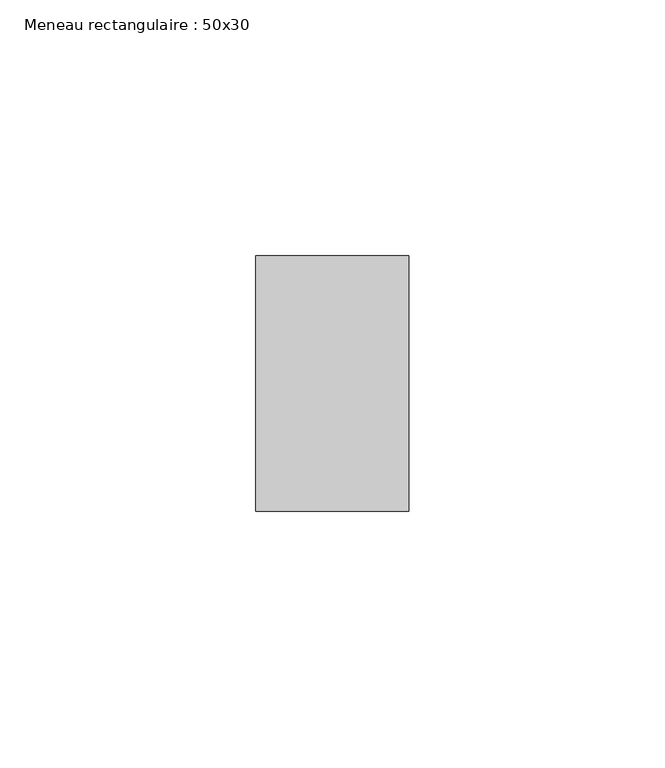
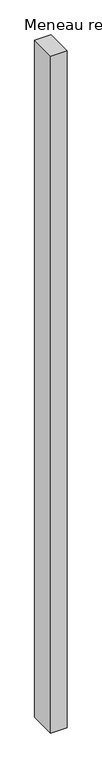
"""IFC4 building model written with IfcOpenShell, lengths in millimetres: member geometry, Meneau rectangulaire : 50x30."""

from ifc_helpers import new_model, si_unit, frame, origin, place, context, project, spatial, polyline, outline, extrude, source, transform, mapped, element, save


def meneau_rectangulaire_50x30_d17a0aed(model_context):
    return source(origin(), model_context, "Body", "SweptSolid", [
        extrude(outline(polyline([(15.0, 0.0), (15.0, -50.0), (-15.0, -50.0), (-15.0, 0.0), (15.0, 0.0)])), frame((0.0, 0.0, -1294.0937083), z_axis=(0.0, 0.0, 1.0), x_axis=(1.0, 0.0, 0.0)), (0.0, 0.0, 1.0), 1294.0937083),
    ])


if __name__ == "__main__":
    model = new_model("IFC4")
    model_context = context("Model", 3, world=origin())
    ifc_project = project(units=[si_unit("LENGTHUNIT", "METRE", prefix="MILLI")], contexts=[model_context])
    site = spatial("IfcSite", under=ifc_project)
    building = spatial("IfcBuilding", under=site)
    placement = place(None, origin())
    meneau_rectangulaire_50x30_shape = meneau_rectangulaire_50x30_d17a0aed(model_context)
    element("IfcMember", 1, ObjectType="Meneau rectangulaire : 50x30", at=placement, inside=building, context=model_context, shape_type="MappedRepresentation", body=[
        mapped(meneau_rectangulaire_50x30_shape, transform((0.0, 0.0, 0.0), x_axis=(1.0, 0.0, 0.0), y_axis=(0.0, 1.0, 0.0), z_axis=(0.0, 0.0, 1.0))),
    ])
    save(model, "model.ifc")
